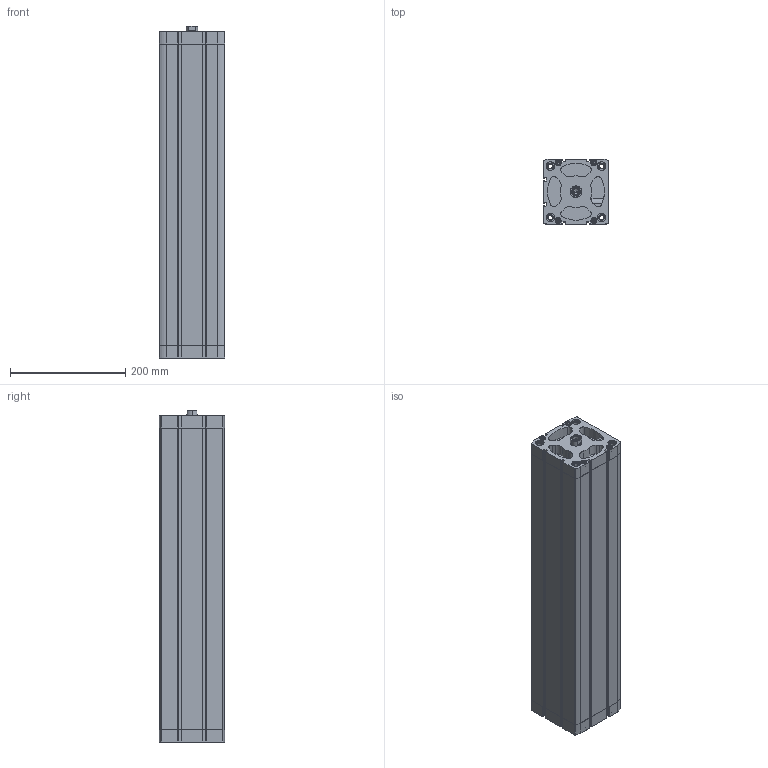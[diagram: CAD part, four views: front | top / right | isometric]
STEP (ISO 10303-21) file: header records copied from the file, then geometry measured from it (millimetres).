
FILE_DESCRIPTION (( 'STEP AP203' ), '1' );
FILE_NAME ('CCN100-500F.STEP', '2020-06-05T18:16:53', ( '' ), ( '' ), 'SwSTEP 2.0', 'SolidWorks 2019', '' );
FILE_SCHEMA (( 'CONFIG_CONTROL_DESIGN' ));
Length unit declared in the file: millimetre
Products named in the file (1): CCN100-500F
Bounding box: 113.5 x 113.5 x 576.8 mm (x, y, z)
Volume: 3052524.2 mm3; surface area: 640231.8 mm2
Topology: 2 solids, 2 shells, 628 faces, 1631 edges, 1043 vertices
Faces by surface type: plane 284, cylinder 270, cone 74
Entity records: 20342 total; most frequent: CARTESIAN_POINT 4507, DIRECTION 3451, ORIENTED_EDGE 3226, EDGE_CURVE 1613, AXIS2_PLACEMENT_3D 1281, VERTEX_POINT 1043, VECTOR 889, LINE 889
